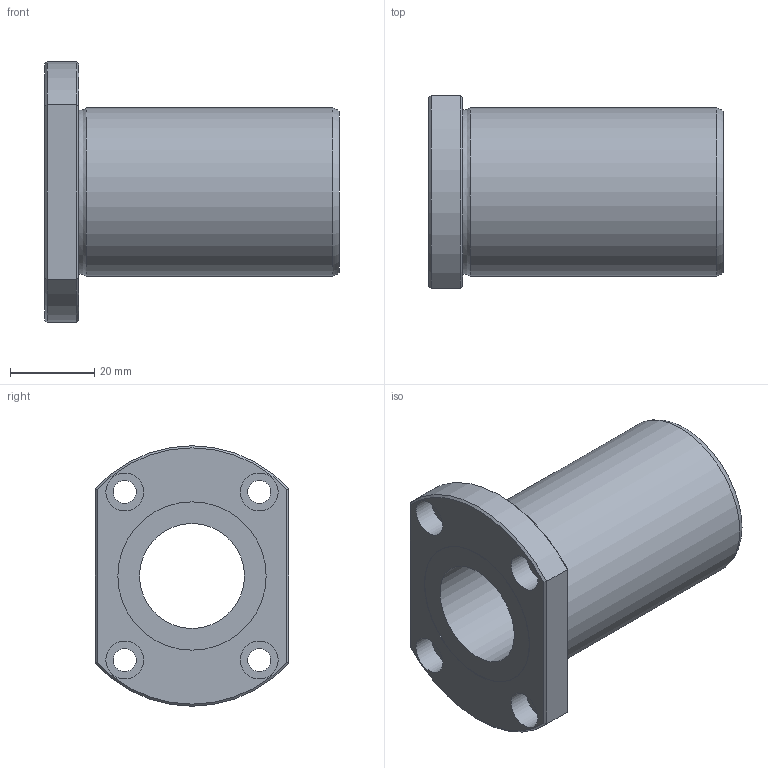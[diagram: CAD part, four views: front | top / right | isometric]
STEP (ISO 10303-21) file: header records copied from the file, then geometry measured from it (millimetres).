
FILE_DESCRIPTION((''),'2;1');
FILE_NAME('D:\製品 (図面)\カタログ用3D\メンテナンスフリー関連\STEP形式\LFT-MF\LFT25MF.stp','2010-06-01T16:08:40',('Tsuchiya'),(''),'Autodesk Inventor 10','Autodesk Inventor 10','');
FILE_SCHEMA(('AUTOMOTIVE_DESIGN { 1 0 10303 214 1 1 1 1 }'));
Length unit declared in the file: millimetre
Products named in the file (1): LFT25MF
Bounding box: 70 x 46 x 62 mm (x, y, z)
Volume: 62158.7 mm3; surface area: 19413.1 mm2
Topology: 1 solids, 1 shells, 35 faces, 68 edges, 42 vertices
Faces by surface type: plane 15, cylinder 14, cone 4, torus 1, bspline 1
Full cylindrical faces by diameter (mm): 5.5 x4, 9 x4, 25 x1, 35.3 x2, 40 x1
Entity records: 935 total; most frequent: CARTESIAN_POINT 218, DIRECTION 150, ORIENTED_EDGE 108, AXIS2_PLACEMENT_3D 69, EDGE_LOOP 66, EDGE_CURVE 54, VERTEX_POINT 42, FACE_OUTER_BOUND 35
